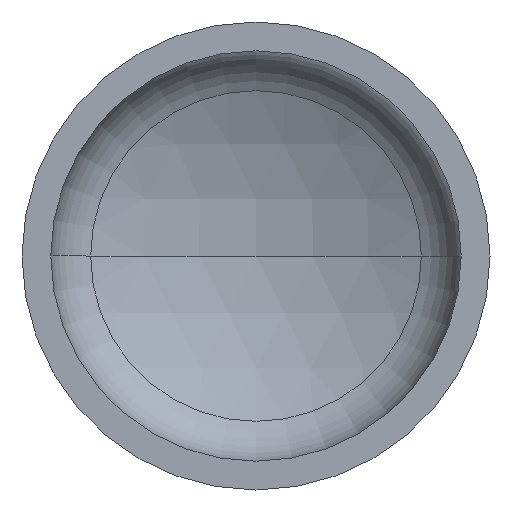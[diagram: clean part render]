
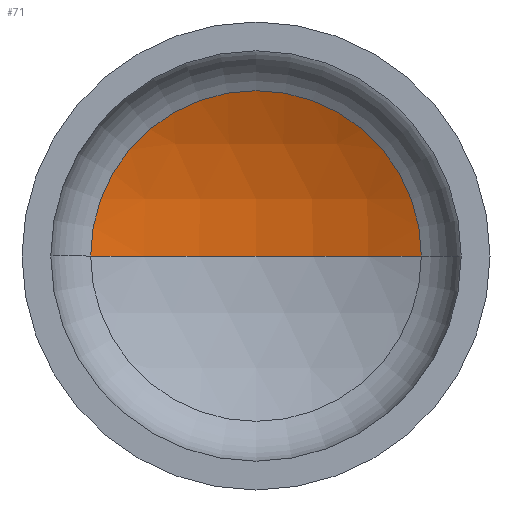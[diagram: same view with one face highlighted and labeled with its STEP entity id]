
A CAD part, front view. The second image highlights one B-rep face of the part: STEP entity #71.
In plain terms, the highlighted spherical face has radius 325 mm.
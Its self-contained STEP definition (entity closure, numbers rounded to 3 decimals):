
#2 = AXIS2_PLACEMENT_3D ( 'NONE', #113, #347, #406 ) ;
#11 = DIRECTION ( 'NONE',  ( 0., 0., -1. ) ) ;
#20 = AXIS2_PLACEMENT_3D ( 'NONE', #267, #341, #403 ) ;
#28 = VERTEX_POINT ( 'NONE', #328 ) ;
#29 = AXIS2_PLACEMENT_3D ( 'NONE', #231, #11, #87 ) ;
#30 = AXIS2_PLACEMENT_3D ( 'NONE', #136, #138, #141 ) ;
#67 = EDGE_CURVE ( 'NONE', #140, #170, #284, .T. ) ;
#69 = EDGE_CURVE ( 'NONE', #28, #140, #204, .T. ) ;
#71 = ADVANCED_FACE ( 'NONE', ( #133 ), #352, .F. ) ;
#87 = DIRECTION ( 'NONE',  ( -1., 0., 0. ) ) ;
#90 = ORIENTED_EDGE ( 'NONE', *, *, #69, .T. ) ;
#113 = CARTESIAN_POINT ( 'NONE',  ( 0., -160.938, 0. ) ) ;
#133 = FACE_OUTER_BOUND ( 'NONE', #334, .T. ) ;
#136 = CARTESIAN_POINT ( 'NONE',  ( 0., 130.62, 0. ) ) ;
#138 = DIRECTION ( 'NONE',  ( 0., -1., 0. ) ) ;
#140 = VERTEX_POINT ( 'NONE', #327 ) ;
#141 = DIRECTION ( 'NONE',  ( 1., 0., 0. ) ) ;
#170 = VERTEX_POINT ( 'NONE', #177 ) ;
#177 = CARTESIAN_POINT ( 'NONE',  ( -143.593, 130.62, 0. ) ) ;
#204 = CIRCLE ( 'NONE', #29, 325. ) ;
#231 = CARTESIAN_POINT ( 'NONE',  ( 0., -160.938, 0. ) ) ;
#264 = ORIENTED_EDGE ( 'NONE', *, *, #67, .T. ) ;
#267 = CARTESIAN_POINT ( 'NONE',  ( 0., -160.938, 0. ) ) ;
#284 = CIRCLE ( 'NONE', #30, 143.593 ) ;
#322 = CIRCLE ( 'NONE', #2, 325. ) ;
#324 = EDGE_CURVE ( 'NONE', #28, #170, #322, .T. ) ;
#327 = CARTESIAN_POINT ( 'NONE',  ( 143.593, 130.62, 0. ) ) ;
#328 = CARTESIAN_POINT ( 'NONE',  ( 0., 164.062, 0. ) ) ;
#334 = EDGE_LOOP ( 'NONE', ( #399, #90, #264 ) ) ;
#341 = DIRECTION ( 'NONE',  ( 0., 0., -1. ) ) ;
#347 = DIRECTION ( 'NONE',  ( 0., 0., 1. ) ) ;
#352 = SPHERICAL_SURFACE ( 'NONE', #20, 325. ) ;
#399 = ORIENTED_EDGE ( 'NONE', *, *, #324, .F. ) ;
#403 = DIRECTION ( 'NONE',  ( -1., 0., 0. ) ) ;
#406 = DIRECTION ( 'NONE',  ( 1., 0., 0. ) ) ;
